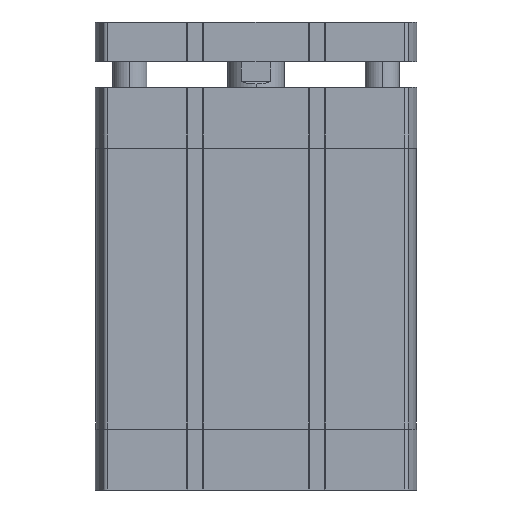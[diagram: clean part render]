
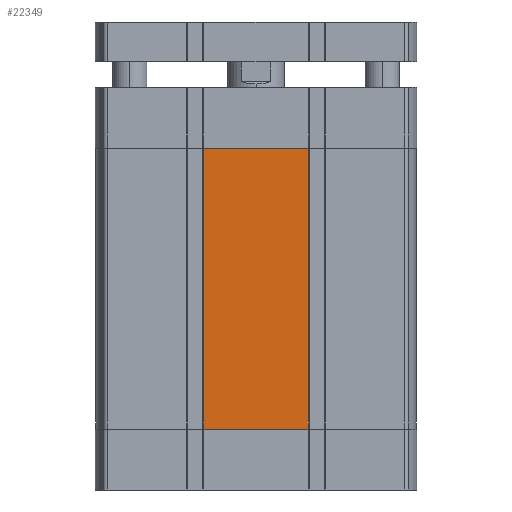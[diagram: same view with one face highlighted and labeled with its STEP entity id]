
A CAD part, front view. The second image highlights one B-rep face of the part: STEP entity #22349.
In plain terms, the highlighted planar face has unit normal (0, -1, 0) as drawn and (-1, 0, 0) by its records, which use the part's own axes.
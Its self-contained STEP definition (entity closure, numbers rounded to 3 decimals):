
#949 = CARTESIAN_POINT ( 'NONE',  ( -56.5, -18.345, -120.5 ) ) ;
#970 = ORIENTED_EDGE ( 'NONE', *, *, #14121, .T. ) ;
#2749 = VECTOR ( 'NONE', #22530, 1000. ) ;
#3245 = VERTEX_POINT ( 'NONE', #4591 ) ;
#4591 = CARTESIAN_POINT ( 'NONE',  ( -56.5, 18.345, -21.5 ) ) ;
#5024 = VECTOR ( 'NONE', #7587, 1000. ) ;
#5252 = VERTEX_POINT ( 'NONE', #16932 ) ;
#5471 = CARTESIAN_POINT ( 'NONE',  ( -56.5, -18.345, -21.5 ) ) ;
#6116 = ORIENTED_EDGE ( 'NONE', *, *, #12567, .T. ) ;
#6696 = CARTESIAN_POINT ( 'NONE',  ( -56.5, 18.345, -120.5 ) ) ;
#7516 = CARTESIAN_POINT ( 'NONE',  ( -56.5, 18.345, -120.5 ) ) ;
#7587 = DIRECTION ( 'NONE',  ( 0., 1., 0. ) ) ;
#8951 = CARTESIAN_POINT ( 'NONE',  ( -56.5, 18.345, -120.5 ) ) ;
#9144 = EDGE_LOOP ( 'NONE', ( #12264, #9834, #6116, #970 ) ) ;
#9586 = DIRECTION ( 'NONE',  ( 0., 0., 1. ) ) ;
#9755 = CARTESIAN_POINT ( 'NONE',  ( -56.5, 18.345, -120.5 ) ) ;
#9834 = ORIENTED_EDGE ( 'NONE', *, *, #10086, .T. ) ;
#9994 = VECTOR ( 'NONE', #16512, 1000. ) ;
#10086 = EDGE_CURVE ( 'NONE', #5252, #22351, #19688, .T. ) ;
#12264 = ORIENTED_EDGE ( 'NONE', *, *, #16082, .T. ) ;
#12567 = EDGE_CURVE ( 'NONE', #22351, #3245, #20707, .T. ) ;
#12805 = LINE ( 'NONE', #8951, #2749 ) ;
#14121 = EDGE_CURVE ( 'NONE', #3245, #19948, #12805, .T. ) ;
#14925 = DIRECTION ( 'NONE',  ( 0., 0., 1. ) ) ;
#16082 = EDGE_CURVE ( 'NONE', #19948, #5252, #25373, .T. ) ;
#16512 = DIRECTION ( 'NONE',  ( 0., -1., 0. ) ) ;
#16932 = CARTESIAN_POINT ( 'NONE',  ( -56.5, -18.345, -120.5 ) ) ;
#19257 = PLANE ( 'NONE',  #20095 ) ;
#19688 = LINE ( 'NONE', #949, #20260 ) ;
#19948 = VERTEX_POINT ( 'NONE', #9755 ) ;
#20095 = AXIS2_PLACEMENT_3D ( 'NONE', #7516, #21159, #9586 ) ;
#20260 = VECTOR ( 'NONE', #14925, 1000. ) ;
#20707 = LINE ( 'NONE', #23201, #5024 ) ;
#21159 = DIRECTION ( 'NONE',  ( -1., 0., 0. ) ) ;
#22349 = ADVANCED_FACE ( 'NONE', ( #22962 ), #19257, .T. ) ;
#22351 = VERTEX_POINT ( 'NONE', #5471 ) ;
#22530 = DIRECTION ( 'NONE',  ( 0., 0., -1. ) ) ;
#22962 = FACE_OUTER_BOUND ( 'NONE', #9144, .T. ) ;
#23201 = CARTESIAN_POINT ( 'NONE',  ( -56.5, -18.545, -21.5 ) ) ;
#25373 = LINE ( 'NONE', #6696, #9994 ) ;
